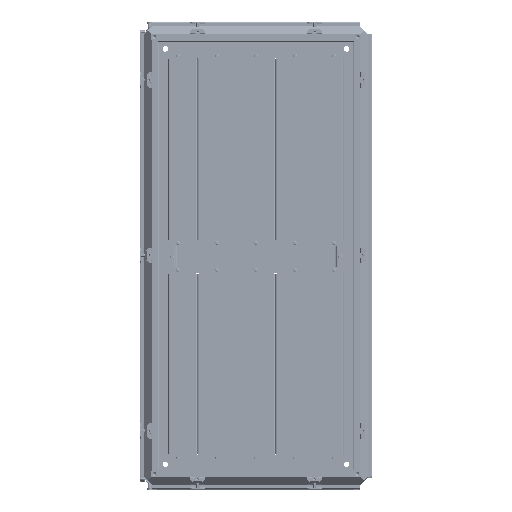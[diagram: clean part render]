
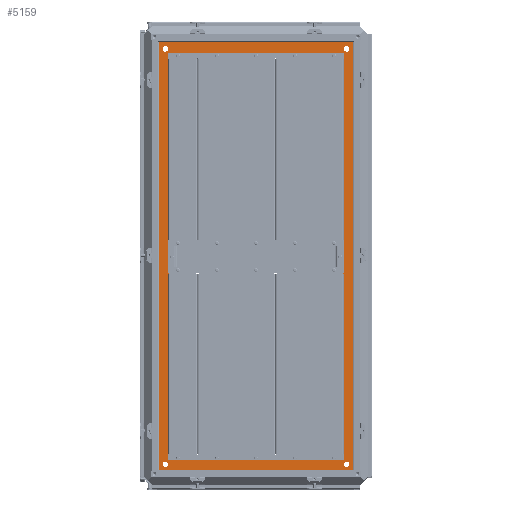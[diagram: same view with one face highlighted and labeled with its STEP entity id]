
A CAD part, top view. The second image highlights one B-rep face of the part: STEP entity #5159.
In plain terms, the highlighted planar face has unit normal (0, 0, 1).
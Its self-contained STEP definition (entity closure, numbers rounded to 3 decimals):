
#5159=ADVANCED_FACE('',(#19499,#19501,#19503,#19505,#19507,#19509),#19511,.F.);
#19499=FACE_BOUND('',#19500,.T.);
#19500=EDGE_LOOP('',(#131465,#131466,#131467,#131468));
#19501=FACE_BOUND('',#19502,.T.);
#19502=EDGE_LOOP('',(#131469,#131470,#131471,#131472));
#19503=FACE_BOUND('',#19504,.T.);
#19504=EDGE_LOOP('',(#131473));
#19505=FACE_BOUND('',#19506,.T.);
#19506=EDGE_LOOP('',(#131474));
#19507=FACE_BOUND('',#19508,.T.);
#19508=EDGE_LOOP('',(#131475));
#19509=FACE_BOUND('',#19510,.T.);
#19510=EDGE_LOOP('',(#131476));
#19511=PLANE('',#19512);
#19512=AXIS2_PLACEMENT_3D('',#19513,#19514,#19515);
#19513=CARTESIAN_POINT('',(0.,0.,-47.5));
#19514=DIRECTION('',(0.,0.,-1.));
#19515=DIRECTION('',(0.,1.,0.));
#131465=ORIENTED_EDGE('',*,*,#199175,.F.);
#131466=ORIENTED_EDGE('',*,*,#199176,.F.);
#131467=ORIENTED_EDGE('',*,*,#199177,.T.);
#131468=ORIENTED_EDGE('',*,*,#199178,.T.);
#131469=ORIENTED_EDGE('',*,*,#199179,.T.);
#131470=ORIENTED_EDGE('',*,*,#199180,.F.);
#131471=ORIENTED_EDGE('',*,*,#199181,.F.);
#131472=ORIENTED_EDGE('',*,*,#199182,.F.);
#131473=ORIENTED_EDGE('',*,*,#199183,.T.);
#131474=ORIENTED_EDGE('',*,*,#199184,.F.);
#131475=ORIENTED_EDGE('',*,*,#199185,.F.);
#131476=ORIENTED_EDGE('',*,*,#199186,.T.);
#199175=EDGE_CURVE('',#233978,#233979,#233980,.F.);
#199176=EDGE_CURVE('',#233981,#233978,#233982,.F.);
#199177=EDGE_CURVE('',#233981,#233983,#233984,.F.);
#199178=EDGE_CURVE('',#233983,#233979,#233985,.F.);
#199179=EDGE_CURVE('',#233986,#233987,#233988,.F.);
#199180=EDGE_CURVE('',#233989,#233987,#233990,.F.);
#199181=EDGE_CURVE('',#233991,#233989,#233992,.F.);
#199182=EDGE_CURVE('',#233986,#233991,#233993,.F.);
#199183=EDGE_CURVE('',#233994,#233994,#233995,.T.);
#199184=EDGE_CURVE('',#233996,#233996,#233997,.T.);
#199185=EDGE_CURVE('',#233998,#233998,#233999,.T.);
#199186=EDGE_CURVE('',#234000,#234000,#234001,.T.);
#233978=VERTEX_POINT('',#294531);
#233979=VERTEX_POINT('',#294532);
#233980=LINE('',#294533,#294534);
#233981=VERTEX_POINT('',#294536);
#233982=LINE('',#294537,#294538);
#233983=VERTEX_POINT('',#294540);
#233984=LINE('',#294541,#294542);
#233985=LINE('',#294544,#294545);
#233986=VERTEX_POINT('',#294547);
#233987=VERTEX_POINT('',#294548);
#233988=LINE('',#294549,#294550);
#233989=VERTEX_POINT('',#294552);
#233990=LINE('',#294553,#294554);
#233991=VERTEX_POINT('',#294556);
#233992=LINE('',#294557,#294558);
#233993=LINE('',#294560,#294561);
#233994=VERTEX_POINT('',#294563);
#233995=CIRCLE('',#294564,7.);
#233996=VERTEX_POINT('',#294568);
#233997=CIRCLE('',#294569,7.);
#233998=VERTEX_POINT('',#294573);
#233999=CIRCLE('',#294574,7.);
#234000=VERTEX_POINT('',#294578);
#234001=CIRCLE('',#294579,7.);
#294531=CARTESIAN_POINT('',(-1.6,1.6,-47.5));
#294532=CARTESIAN_POINT('',(-500.4,1.6,-47.5));
#294533=CARTESIAN_POINT('',(-500.4,1.6,-47.5));
#294534=VECTOR('',#294535,1.);
#294535=DIRECTION('',(1.,0.,0.));
#294536=CARTESIAN_POINT('',(-1.6,1100.4,-47.5));
#294537=CARTESIAN_POINT('',(-1.6,1.6,-47.5));
#294538=VECTOR('',#294539,1.);
#294539=DIRECTION('',(0.,1.,0.));
#294540=CARTESIAN_POINT('',(-500.4,1100.4,-47.5));
#294541=CARTESIAN_POINT('',(-500.4,1100.4,-47.5));
#294542=VECTOR('',#294543,1.);
#294543=DIRECTION('',(1.,0.,0.));
#294544=CARTESIAN_POINT('',(-500.4,1.6,-47.5));
#294545=VECTOR('',#294546,1.);
#294546=DIRECTION('',(0.,1.,0.));
#294547=CARTESIAN_POINT('',(-39.4,39.4,-47.5));
#294548=CARTESIAN_POINT('',(-462.6,39.4,-47.5));
#294549=CARTESIAN_POINT('',(-462.6,39.4,-47.5));
#294550=VECTOR('',#294551,1.);
#294551=DIRECTION('',(1.,0.,0.));
#294552=CARTESIAN_POINT('',(-462.6,1062.6,-47.5));
#294553=CARTESIAN_POINT('',(-462.6,39.4,-47.5));
#294554=VECTOR('',#294555,1.);
#294555=DIRECTION('',(0.,1.,0.));
#294556=CARTESIAN_POINT('',(-39.4,1062.6,-47.5));
#294557=CARTESIAN_POINT('',(-462.6,1062.6,-47.5));
#294558=VECTOR('',#294559,1.);
#294559=DIRECTION('',(1.,0.,0.));
#294560=CARTESIAN_POINT('',(-39.4,1062.6,-47.5));
#294561=VECTOR('',#294562,1.);
#294562=DIRECTION('',(0.,-1.,0.));
#294563=CARTESIAN_POINT('',(-18.5,25.5,-47.5));
#294564=AXIS2_PLACEMENT_3D('',#294565,#294566,#294567);
#294565=CARTESIAN_POINT('',(-18.5,18.5,-47.5));
#294566=DIRECTION('',(0.,0.,-1.));
#294567=DIRECTION('',(0.,1.,0.));
#294568=CARTESIAN_POINT('',(-483.5,25.5,-47.5));
#294569=AXIS2_PLACEMENT_3D('',#294570,#294571,#294572);
#294570=CARTESIAN_POINT('',(-483.5,18.5,-47.5));
#294571=DIRECTION('',(0.,0.,1.));
#294572=DIRECTION('',(0.,1.,0.));
#294573=CARTESIAN_POINT('',(-18.5,1076.5,-47.5));
#294574=AXIS2_PLACEMENT_3D('',#294575,#294576,#294577);
#294575=CARTESIAN_POINT('',(-18.5,1083.5,-47.5));
#294576=DIRECTION('',(0.,0.,1.));
#294577=DIRECTION('',(0.,-1.,0.));
#294578=CARTESIAN_POINT('',(-483.5,1076.5,-47.5));
#294579=AXIS2_PLACEMENT_3D('',#294580,#294581,#294582);
#294580=CARTESIAN_POINT('',(-483.5,1083.5,-47.5));
#294581=DIRECTION('',(0.,0.,-1.));
#294582=DIRECTION('',(0.,-1.,0.));
